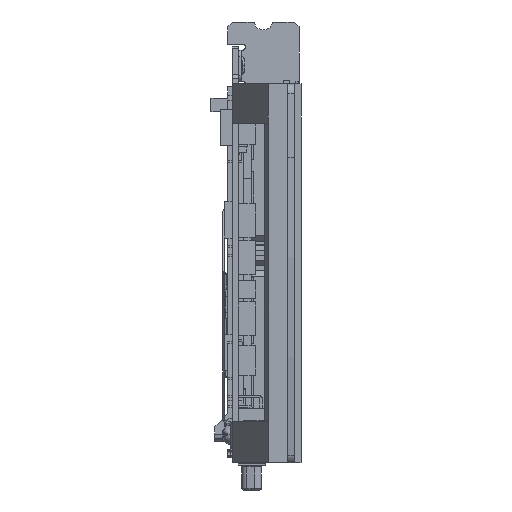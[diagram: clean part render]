
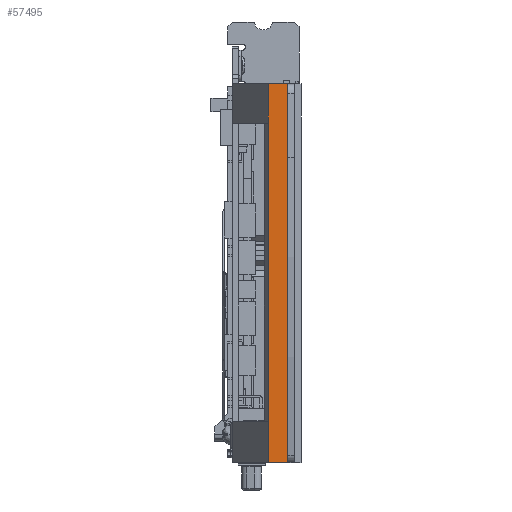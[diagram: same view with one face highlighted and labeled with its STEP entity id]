
A CAD part, front view. The second image highlights one B-rep face of the part: STEP entity #57495.
In plain terms, the highlighted planar face has unit normal (0, -1, 0).
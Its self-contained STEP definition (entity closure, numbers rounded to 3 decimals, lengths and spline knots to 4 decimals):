
#4416=DIRECTION('',(1.,0.,0.));
#4417=VECTOR('',#4416,0.198);
#4418=CARTESIAN_POINT('',(0.364,-12.579,-0.185));
#4419=LINE('',#4418,#4417);
#4509=DIRECTION('',(1.,0.,0.));
#4510=VECTOR('',#4509,0.198);
#4511=CARTESIAN_POINT('',(0.364,-12.579,-4.01));
#4512=LINE('',#4511,#4510);
#4585=DIRECTION('',(0.,0.,1.));
#4586=VECTOR('',#4585,3.825);
#4587=CARTESIAN_POINT('',(0.364,-12.579,-4.01));
#4588=LINE('',#4587,#4586);
#4604=DIRECTION('',(0.,0.,1.));
#4605=VECTOR('',#4604,3.825);
#4606=CARTESIAN_POINT('',(0.562,-12.579,-4.01));
#4607=LINE('',#4606,#4605);
#54641=CARTESIAN_POINT('',(0.364,-12.579,-4.01));
#54642=VERTEX_POINT('',#54641);
#54643=CARTESIAN_POINT('',(0.562,-12.579,-4.01));
#54644=VERTEX_POINT('',#54643);
#54661=CARTESIAN_POINT('',(0.364,-12.579,-0.185));
#54662=VERTEX_POINT('',#54661);
#54663=CARTESIAN_POINT('',(0.562,-12.579,-0.185));
#54664=VERTEX_POINT('',#54663);
#57483=CARTESIAN_POINT('',(0.364,-12.579,-4.01));
#57484=DIRECTION('',(0.,-1.,0.));
#57485=DIRECTION('',(1.,0.,0.));
#57486=AXIS2_PLACEMENT_3D('',#57483,#57484,#57485);
#57487=PLANE('',#57486);
#57488=ORIENTED_EDGE('',*,*,#57416,.F.);
#57489=ORIENTED_EDGE('',*,*,#57461,.T.);
#57490=ORIENTED_EDGE('',*,*,#57210,.T.);
#57492=ORIENTED_EDGE('',*,*,#57491,.F.);
#57493=EDGE_LOOP('',(#57488,#57489,#57490,#57492));
#57494=FACE_OUTER_BOUND('',#57493,.F.);
#57495=ADVANCED_FACE('',(#57494),#57487,.T.);
#57210=EDGE_CURVE('',#54662,#54664,#4419,.T.);
#57416=EDGE_CURVE('',#54642,#54644,#4512,.T.);
#57461=EDGE_CURVE('',#54642,#54662,#4588,.T.);
#57491=EDGE_CURVE('',#54644,#54664,#4607,.T.);
